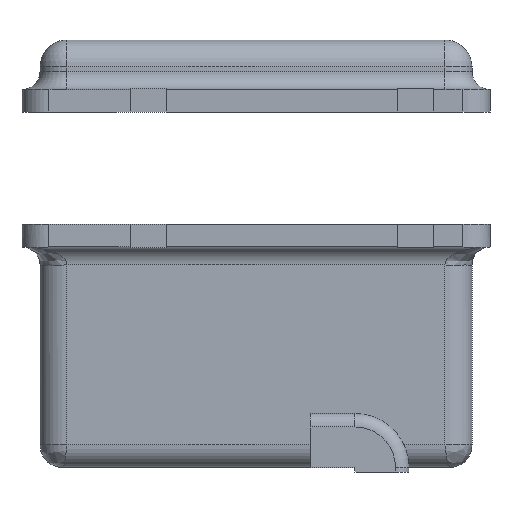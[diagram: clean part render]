
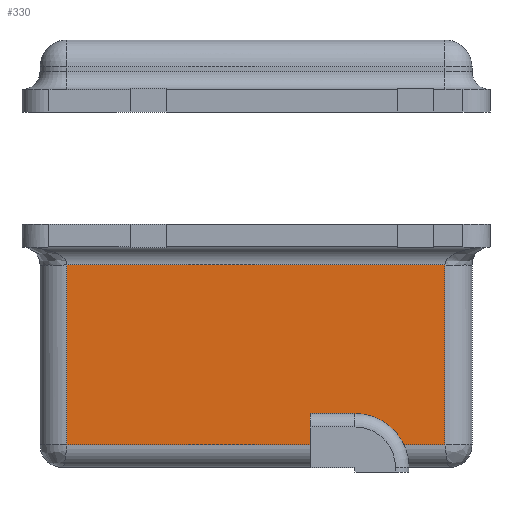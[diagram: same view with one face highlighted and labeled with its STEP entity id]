
A CAD part, front view. The second image highlights one B-rep face of the part: STEP entity #330.
In plain terms, the highlighted planar face has unit normal (0, -1, 0).
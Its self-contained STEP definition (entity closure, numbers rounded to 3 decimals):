
#330=ADVANCED_FACE('',(#2307),#2309,.T.);
#2307=FACE_BOUND('',#2308,.T.);
#2308=EDGE_LOOP('',(#4068,#4069,#4070,#4071));
#2309=PLANE('',#2310);
#2310=AXIS2_PLACEMENT_3D('',#2311,#2312,#2313);
#2311=CARTESIAN_POINT('',(0.,0.,0.));
#2312=DIRECTION('',(0.,-1.,0.));
#2313=DIRECTION('',(1.,0.,0.));
#4068=ORIENTED_EDGE('',*,*,#5026,.F.);
#4069=ORIENTED_EDGE('',*,*,#5027,.T.);
#4070=ORIENTED_EDGE('',*,*,#5028,.T.);
#4071=ORIENTED_EDGE('',*,*,#4946,.F.);
#4946=EDGE_CURVE('',#5476,#5478,#5479,.F.);
#5026=EDGE_CURVE('',#5610,#5476,#5611,.T.);
#5027=EDGE_CURVE('',#5610,#5612,#5613,.T.);
#5028=EDGE_CURVE('',#5612,#5478,#5614,.T.);
#5476=VERTEX_POINT('',#6531);
#5478=VERTEX_POINT('',#6554);
#5479=LINE('',#6555,#6556);
#5610=VERTEX_POINT('',#7340);
#5611=LINE('',#7341,#7342);
#5612=VERTEX_POINT('',#7344);
#5613=LINE('',#7345,#7346);
#5614=LINE('',#7348,#7349);
#6531=CARTESIAN_POINT('',(3.,0.,22.5));
#6554=CARTESIAN_POINT('',(45.,0.,22.5));
#6555=CARTESIAN_POINT('',(45.,0.,22.5));
#6556=VECTOR('',#6557,1.);
#6557=DIRECTION('',(-1.,0.,0.));
#7340=CARTESIAN_POINT('',(3.,0.,2.5));
#7341=CARTESIAN_POINT('',(3.,0.,2.5));
#7342=VECTOR('',#7343,1.);
#7343=DIRECTION('',(0.,0.,1.));
#7344=CARTESIAN_POINT('',(45.,0.,2.5));
#7345=CARTESIAN_POINT('',(3.,0.,2.5));
#7346=VECTOR('',#7347,1.);
#7347=DIRECTION('',(1.,0.,0.));
#7348=CARTESIAN_POINT('',(45.,0.,2.5));
#7349=VECTOR('',#7350,1.);
#7350=DIRECTION('',(0.,0.,1.));
